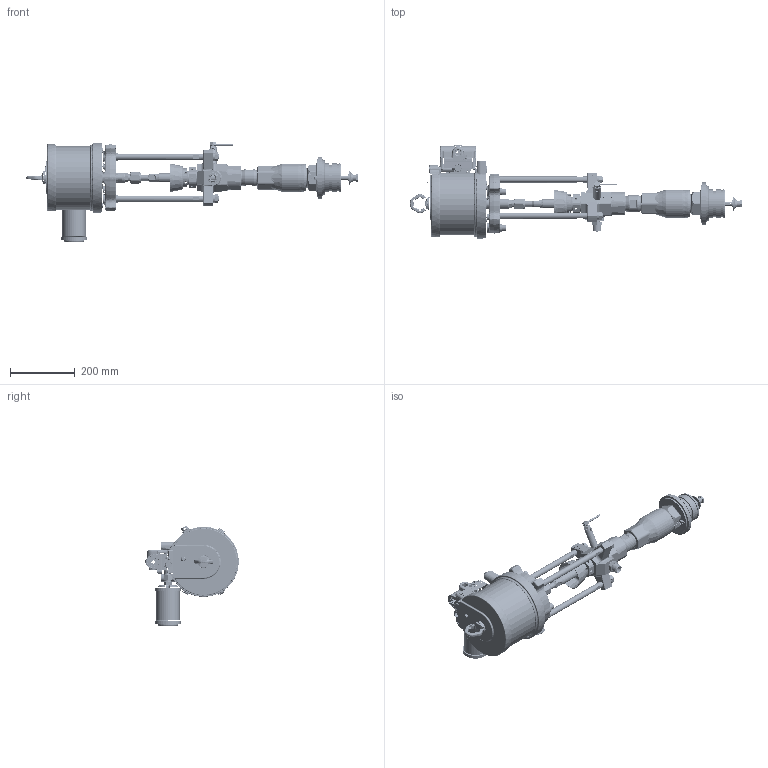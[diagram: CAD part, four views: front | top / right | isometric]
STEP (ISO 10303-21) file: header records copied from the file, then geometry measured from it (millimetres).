
FILE_DESCRIPTION((''),'2;1');
FILE_NAME('P38LCS-EN-E_PRT','2020-05-28T13:58:03',('qusrh3'),(''),'CREO PARAMETRIC BY PTC INC, 2019030','CREO PARAMETRIC BY PTC INC, 2019030','');
FILE_SCHEMA(('CONFIG_CONTROL_DESIGN'));
Products named in the file (1): P38LCS-EN-E_PRT
Bounding box: 1028.57 x 290.03 x 311.92 mm (x, y, z)
Surface area: 960733.8 mm2 (no closed solid volume)
Topology: 0 solids, 565 shells, 3271 faces, 14034 edges, 10886 vertices
Faces by surface type: plane 989, cylinder 748, cone 579, torus 496, bspline 445, sphere 14
Entity records: 179478 total; most frequent: CARTESIAN_POINT 76807, DIRECTION 19574, ORIENTED_EDGE 18672, EDGE_CURVE 14017, VERTEX_POINT 10886, AXIS2_PLACEMENT_3D 7396, VECTOR 4782, LINE 4782
